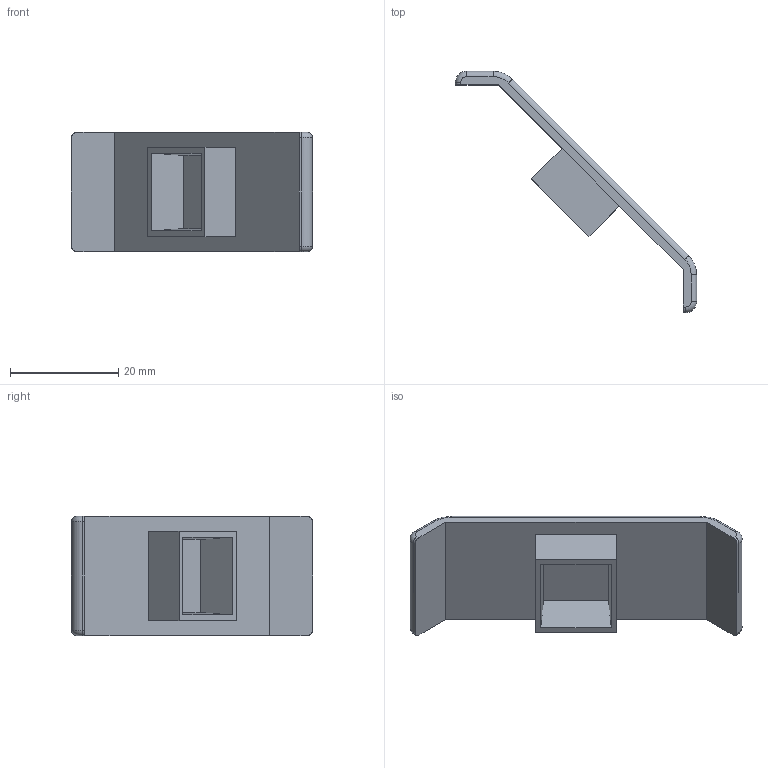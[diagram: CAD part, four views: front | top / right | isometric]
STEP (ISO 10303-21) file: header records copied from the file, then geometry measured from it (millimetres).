
FILE_DESCRIPTION (( 'STEP AP203' ), '1' );
FILE_NAME ('084.206.002.STEP', '2013-01-23T08:45:03', ( 'Alusic' ), ( 'Alusic' ), 'SwSTEP 2.0', 'SolidWorks 2011', '' );
FILE_SCHEMA (( 'CONFIG_CONTROL_DESIGN' ));
Length unit declared in the file: millimetre
Products named in the file (1): 084.206.002
Bounding box: 44.5 x 44.5 x 22 mm (x, y, z)
Volume: 4134.5 mm3; surface area: 4139.2 mm2
Topology: 1 solids, 1 shells, 42 faces, 98 edges, 60 vertices
Faces by surface type: plane 20, cylinder 14, torus 8
Entity records: 1267 total; most frequent: DIRECTION 220, CARTESIAN_POINT 201, ORIENTED_EDGE 196, EDGE_CURVE 98, AXIS2_PLACEMENT_3D 79, VECTOR 62, LINE 62, VERTEX_POINT 60
